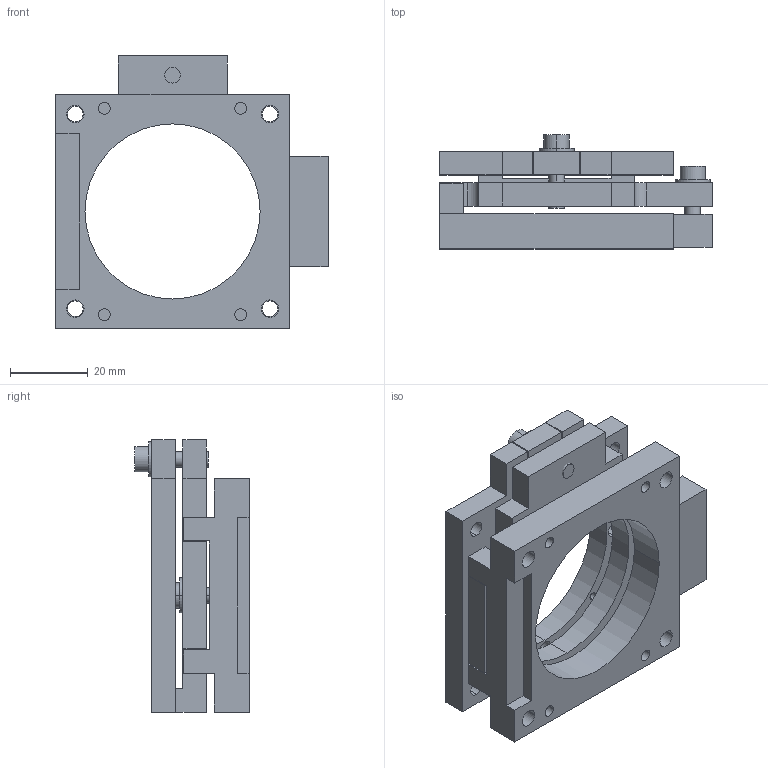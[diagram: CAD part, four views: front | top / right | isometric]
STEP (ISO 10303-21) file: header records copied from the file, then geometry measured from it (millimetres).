
FILE_DESCRIPTION (( 'STEP AP203' ), '1' );
FILE_NAME ('TD-A6051FX.STEP', '2017-07-04T08:41:45', ( '' ), ( '' ), 'SwSTEP 2.0', 'SolidWorks 2016', '' );
FILE_SCHEMA (( 'CONFIG_CONTROL_DESIGN' ));
Length unit declared in the file: millimetre
Products named in the file (6): TD-A6051FX-1; TD-A6051FX-2; TD-A6051FX-3; TD-A6051FX-4; TD-A6051FX-5; TD-A6051FX
Assembly tree (5 placements, depth 2):
  TD-A6051FX
    TD-A6051FX-1
    TD-A6051FX-2
    TD-A6051FX-3
    TD-A6051FX-4
    TD-A6051FX-5
Bounding box: 70 x 29.35 x 70 mm (x, y, z)
Volume: 44614.8 mm3; surface area: 25186.6 mm2
Topology: 5 solids, 5 shells, 212 faces, 528 edges, 352 vertices
Faces by surface type: plane 110, cylinder 102
Entity records: 7100 total; most frequent: DIRECTION 1172, CARTESIAN_POINT 1100, ORIENTED_EDGE 1056, EDGE_CURVE 528, AXIS2_PLACEMENT_3D 424, VERTEX_POINT 352, LINE 324, VECTOR 324
